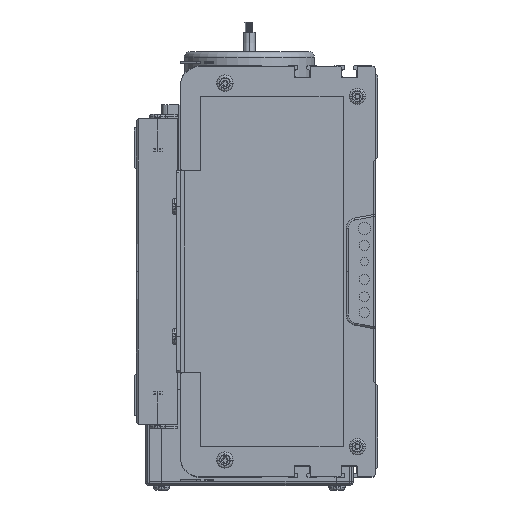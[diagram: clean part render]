
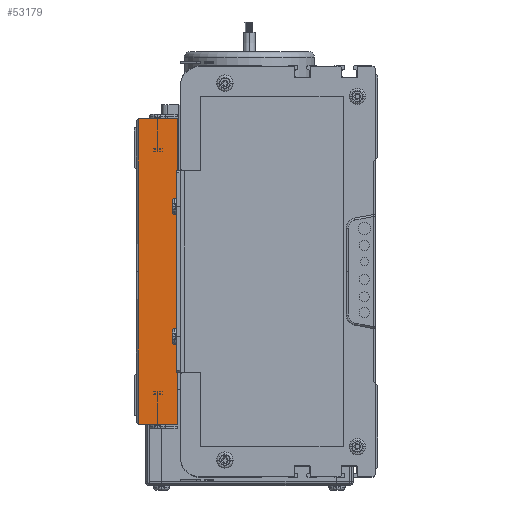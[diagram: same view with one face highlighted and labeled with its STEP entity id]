
A CAD part, left-side view. The second image highlights one B-rep face of the part: STEP entity #53179.
In plain terms, the highlighted planar face has unit normal (-1, 0, 0).
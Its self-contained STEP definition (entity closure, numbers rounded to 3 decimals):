
#51582 = VERTEX_POINT ( 'NONE', #129774 ) ;
#51643 = EDGE_CURVE ( 'NONE', #51687, #51582, #68461, .T. ) ;
#51687 = VERTEX_POINT ( 'NONE', #68994 ) ;
#52936 = EDGE_CURVE ( 'NONE', #53106, #53185, #139572, .T. ) ;
#53106 = VERTEX_POINT ( 'NONE', #94055 ) ;
#53129 = VERTEX_POINT ( 'NONE', #94113 ) ;
#53166 = ORIENTED_EDGE ( 'NONE', *, *, #51643, .T. ) ;
#53177 = EDGE_CURVE ( 'NONE', #53106, #51582, #94224, .T. ) ;
#53179 = ADVANCED_FACE ( 'NONE', ( #94237 ), #94212, .F. ) ;
#53183 = ORIENTED_EDGE ( 'NONE', *, *, #53177, .F. ) ;
#53185 = VERTEX_POINT ( 'NONE', #94218 ) ;
#53186 = ORIENTED_EDGE ( 'NONE', *, *, #52936, .T. ) ;
#53187 = EDGE_CURVE ( 'NONE', #53185, #53129, #94204, .T. ) ;
#53189 = ORIENTED_EDGE ( 'NONE', *, *, #53203, .T. ) ;
#53198 = EDGE_LOOP ( 'NONE', ( #53183, #53186, #53200, #53189, #53166 ) ) ;
#53200 = ORIENTED_EDGE ( 'NONE', *, *, #53187, .T. ) ;
#53203 = EDGE_CURVE ( 'NONE', #53129, #51687, #94197, .T. ) ;
#68435 = DIRECTION ( 'NONE',  ( 0., 0., 1. ) ) ;
#68436 = VECTOR ( 'NONE', #68435, 1000. ) ;
#68437 = CARTESIAN_POINT ( 'NONE',  ( 0., 0., 0. ) ) ;
#68461 = LINE ( 'NONE', #68437, #68436 ) ;
#68994 = CARTESIAN_POINT ( 'NONE',  ( 0., 0., -75. ) ) ;
#94048 = AXIS2_PLACEMENT_3D ( 'NONE', #94217, #94216, #94209 ) ;
#94055 = CARTESIAN_POINT ( 'NONE',  ( 0., 19., 75. ) ) ;
#94113 = CARTESIAN_POINT ( 'NONE',  ( 0., 19., -75. ) ) ;
#94194 = DIRECTION ( 'NONE',  ( 0., -1., 0. ) ) ;
#94195 = VECTOR ( 'NONE', #94194, 1000. ) ;
#94196 = CARTESIAN_POINT ( 'NONE',  ( 0., 20., -75. ) ) ;
#94197 = LINE ( 'NONE', #94196, #94195 ) ;
#94201 = DIRECTION ( 'NONE',  ( 0., 0., -1. ) ) ;
#94202 = VECTOR ( 'NONE', #94201, 1000. ) ;
#94203 = CARTESIAN_POINT ( 'NONE',  ( 0., 19., 0. ) ) ;
#94204 = LINE ( 'NONE', #94203, #94202 ) ;
#94209 = DIRECTION ( 'NONE',  ( 0., 0., -1. ) ) ;
#94212 = PLANE ( 'NONE',  #94048 ) ;
#94213 = DIRECTION ( 'NONE',  ( 0., -1., 0. ) ) ;
#94214 = VECTOR ( 'NONE', #94213, 1000. ) ;
#94215 = CARTESIAN_POINT ( 'NONE',  ( 0., 20., 75. ) ) ;
#94216 = DIRECTION ( 'NONE',  ( 1., 0., 0. ) ) ;
#94217 = CARTESIAN_POINT ( 'NONE',  ( 0., 20., 0. ) ) ;
#94218 = CARTESIAN_POINT ( 'NONE',  ( 0., 19., 0. ) ) ;
#94224 = LINE ( 'NONE', #94215, #94214 ) ;
#94237 = FACE_OUTER_BOUND ( 'NONE', #53198, .T. ) ;
#129774 = CARTESIAN_POINT ( 'NONE',  ( 0., 0., 75. ) ) ;
#139111 = VECTOR ( 'NONE', #139231, 1000. ) ;
#139231 = DIRECTION ( 'NONE',  ( 0., 0., -1. ) ) ;
#139232 = CARTESIAN_POINT ( 'NONE',  ( 0., 19., 0. ) ) ;
#139572 = LINE ( 'NONE', #139232, #139111 ) ;
